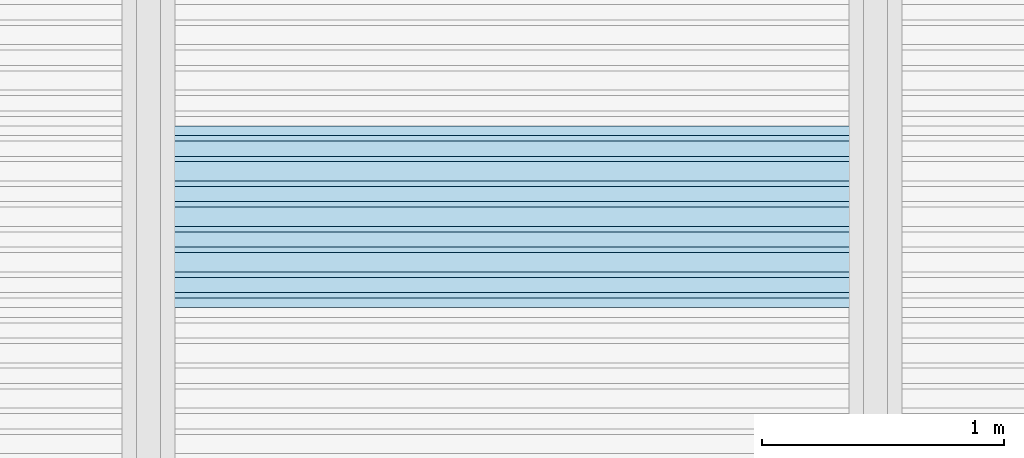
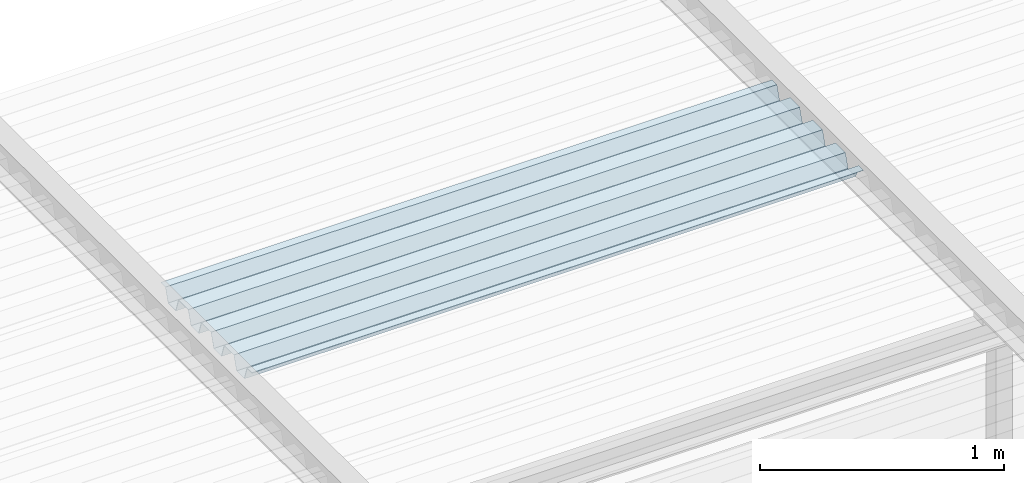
# One storey, part 92 of 98: 1 slab.
"""IFC2X3 building model written with IfcOpenShell, lengths in millimetres."""

from ifc_helpers import new_model, entity, si_unit, converted_unit, derived_unit, direction, frame, origin_with_axes, place, context, subcontext, project, spatial, faceted_brep, material, type_object, element, save


model = new_model("IFC2X3")

# Units and contexts
model_context = context("Model", 3, precision=0.01, world=frame((0.0, 4.29681676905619e-09, 0.0)), true_north=direction((4.01073788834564e-13, 1.0)))
plan_context = context("Plan", 3, precision=0.01, world=frame((0.0, 4.29681676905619e-09, 0.0)), true_north=direction((4.01073788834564e-13, 1.0)))
body_context = subcontext(model_context, "Body", "Model", "MODEL_VIEW")
ifc_project = project(units=[converted_unit("PLANEANGLEUNIT", "DEGREE", entity("IfcPositiveLengthMeasure", 0.0174532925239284), si_unit("PLANEANGLEUNIT", "RADIAN"), dimensions=[0, 0, 0, 0, 0, 0, 0]), si_unit("AREAUNIT", "SQUARE_METRE"), si_unit("LENGTHUNIT", "METRE", prefix="MILLI"), si_unit("MASSUNIT", "GRAM", prefix="KILO"), si_unit("POWERUNIT", "WATT"), si_unit("PRESSUREUNIT", "PASCAL"), si_unit("FORCEUNIT", "NEWTON", prefix="KILO"), si_unit("ELECTRICCURRENTUNIT", "AMPERE"), si_unit("THERMODYNAMICTEMPERATUREUNIT", "DEGREE_CELSIUS"), si_unit("TIMEUNIT", "SECOND"), si_unit("VOLUMEUNIT", "CUBIC_METRE"), derived_unit("LINEARVELOCITYUNIT", [(si_unit("LENGTHUNIT", "METRE"), 1), (si_unit("TIMEUNIT", "SECOND"), -1)]), derived_unit("VOLUMETRICFLOWRATEUNIT", [(si_unit("VOLUMEUNIT", "CUBIC_METRE"), 1), (si_unit("TIMEUNIT", "SECOND"), -1)]), derived_unit("THERMALTRANSMITTANCEUNIT", [(si_unit("POWERUNIT", "WATT"), 1), (si_unit("THERMODYNAMICTEMPERATUREUNIT", "KELVIN"), -1), (si_unit("AREAUNIT", "SQUARE_METRE"), -1)])], contexts=[model_context, plan_context])

# Site, building, storey
site_placement = place(None, frame((0.0, -4.29681676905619e-09, 0.0), z_axis=(0.0, 0.0, 1.0), x_axis=(1.0, 0.0, 0.0)))
site = spatial("IfcSite", under=ifc_project, at=site_placement, Name="Gardermoen", CompositionType="ELEMENT")
building_placement = place(site_placement, frame((0.0, 4.29681676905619e-09, 0.0), z_axis=(0.0, 0.0, 1.0), x_axis=(1.0, 0.0, 0.0)))
building = spatial("IfcBuilding", under=site, at=building_placement, Name="TS", CompositionType="ELEMENT")
storey_placement = place(building_placement, origin_with_axes())
storey = spatial("IfcBuildingStorey", under=building, at=storey_placement, Name="D", CompositionType="ELEMENT", Elevation=0.0)

# Slab
ifc_material = material(Name="STEEL/S355")
slab_type = type_object("IfcSlabType", Name="PLANJA70", PredefinedType="NOTDEFINED")
slab_placement = place(storey_placement, frame((528950.000000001, 418904.996695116, 206958.849718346), z_axis=(0.0, 0.0, 1.0), x_axis=(-0.999999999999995, -9.99999902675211e-08, 0.0)))
element("IfcSlab", 1, at=slab_placement, inside=storey, type_object=slab_type, material=ifc_material, Name="STÅLTAK", ObjectType="PLANJA70", PredefinedType="FLOOR", context=body_context, shape_type="Brep", body=[
    faceted_brep([(0.0, 375.0, 34.1500015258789), (0.0, 335.299987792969, 34.1500015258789), (2900.00079747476, 335.299987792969, 34.1500015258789), (2900.00079747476, 375.0, 34.1500015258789), (0.0, 313.010681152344, -32.1500015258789), (2900.00079747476, 313.010681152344, -32.1500015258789), (0.0, 249.489303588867, -32.1500015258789), (2900.00079747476, 249.489303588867, -32.1500015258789), (0.0, 227.199996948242, 34.1500015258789), (2900.00079747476, 227.199996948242, 34.1500015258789), (0.0, 147.800003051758, 34.1500015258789), (2900.00079747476, 147.800003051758, 34.1500015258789), (0.0, 125.280120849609, -33.1500015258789), (2900.00079747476, 125.280120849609, -33.1500015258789), (0.0, 62.2198791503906, -33.1500015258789), (2900.00079747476, 62.2198791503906, -33.1500015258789), (0.0, 39.7000007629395, 34.1500015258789), (2900.00079747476, 39.7000007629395, 34.1500015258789), (0.0, -39.7000007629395, 34.1500015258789), (2900.00079747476, -39.7000007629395, 34.1500015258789), (0.0, -62.2198791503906, -33.1500015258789), (2900.00079747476, -62.2198791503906, -33.1500015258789), (0.0, -125.280120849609, -33.1500015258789), (2900.00079747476, -125.280120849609, -33.1500015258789), (0.0, -147.800003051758, 34.1500015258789), (2900.00079747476, -147.800003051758, 34.1500015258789), (0.0, -227.199996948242, 34.1500015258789), (2900.00079747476, -227.199996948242, 34.1500015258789), (0.0, -249.719879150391, -33.1500015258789), (2900.00079747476, -249.719879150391, -33.1500015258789), (0.0, -312.781188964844, -33.1500015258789), (2900.00079747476, -312.781188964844, -33.1500015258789), (0.0, -335.070495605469, 33.1500015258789), (2900.00079747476, -335.070495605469, 33.1500015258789), (0.0, -375.0, 33.1500015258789), (2900.00079747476, -375.0, 33.1500015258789), (0.0, -375.0, 32.1500015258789), (2900.00079747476, -375.0, 32.1500015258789), (0.0, -335.789306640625, 32.1500015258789), (2900.00079747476, -335.789306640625, 32.1500015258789), (0.0, -313.5, -34.1500015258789), (2900.00079747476, -313.5, -34.1500015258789), (0.0, -249.0, -34.1500015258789), (2900.00079747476, -249.0, -34.1500015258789), (0.0, -226.480117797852, 33.1500015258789), (2900.00079747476, -226.480117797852, 33.1500015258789), (0.0, -148.519882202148, 33.1500015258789), (2900.00079747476, -148.519882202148, 33.1500015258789), (0.0, -126.0, -34.1500015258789), (2900.00079747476, -126.0, -34.1500015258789), (0.0, -61.5, -34.1500015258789), (2900.00079747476, -61.5, -34.1500015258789), (0.0, -38.9801177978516, 33.1500015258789), (2900.00079747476, -38.9801177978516, 33.1500015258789), (0.0, 38.9801177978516, 33.1500015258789), (2900.00079747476, 38.9801177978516, 33.1500015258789), (0.0, 61.5, -34.1500015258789), (2900.00079747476, 61.5, -34.1500015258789), (0.0, 126.0, -34.1500015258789), (2900.00079747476, 126.0, -34.1500015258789), (0.0, 148.519882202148, 33.1500015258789), (2900.00079747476, 148.519882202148, 33.1500015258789), (0.0, 226.481185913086, 33.1500015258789), (2900.00079747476, 226.481185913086, 33.1500015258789), (0.0, 248.770492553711, -33.1500015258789), (2900.00079747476, 248.770492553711, -33.1500015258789), (0.0, 313.7294921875, -33.1500015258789), (2900.00079747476, 313.7294921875, -33.1500015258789), (0.0, 336.018798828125, 33.1500015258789), (2900.00079747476, 336.018798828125, 33.1500015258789), (0.0, 375.0, 33.1500015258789), (2900.00079747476, 375.0, 33.1500015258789)], [[[0, 1, 2, 3]], [[1, 4, 5, 2]], [[4, 6, 7, 5]], [[6, 8, 9, 7]], [[8, 10, 11, 9]], [[10, 12, 13, 11]], [[12, 14, 15, 13]], [[14, 16, 17, 15]], [[16, 18, 19, 17]], [[18, 20, 21, 19]], [[22, 23, 21, 20]], [[22, 24, 25, 23]], [[24, 26, 27, 25]], [[26, 28, 29, 27]], [[28, 30, 31, 29]], [[30, 32, 33, 31]], [[32, 34, 35, 33]], [[34, 36, 37, 35]], [[36, 38, 39, 37]], [[38, 40, 41, 39]], [[40, 42, 43, 41]], [[42, 44, 45, 43]], [[44, 46, 47, 45]], [[46, 48, 49, 47]], [[48, 50, 51, 49]], [[50, 52, 53, 51]], [[52, 54, 55, 53]], [[54, 56, 57, 55]], [[56, 58, 59, 57]], [[58, 60, 61, 59]], [[60, 62, 63, 61]], [[62, 64, 65, 63]], [[64, 66, 67, 65]], [[66, 68, 69, 67]], [[68, 70, 71, 69]], [[70, 0, 3, 71]], [[5, 7, 9, 11, 13, 15, 17, 19, 21, 23, 25, 27, 29, 31, 33, 35, 37, 39, 41, 43, 45, 47, 49, 51, 53, 55, 57, 59, 61, 63, 65, 67, 69, 71, 3, 2]], [[70, 68, 66, 64, 62, 60, 58, 56, 54, 52, 50, 48, 46, 44, 42, 40, 38, 36, 34, 32, 30, 28, 26, 24, 22, 20, 18, 16, 14, 12, 10, 8, 6, 4, 1, 0]]]),
])

save(model, "model.ifc")
